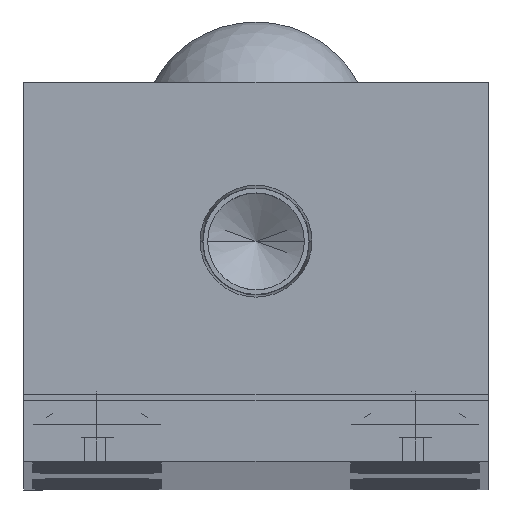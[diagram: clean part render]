
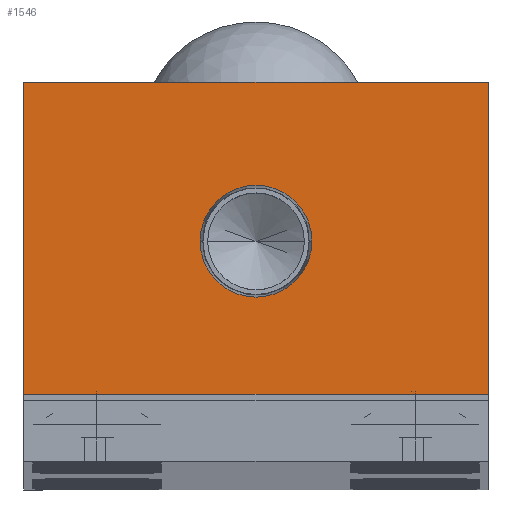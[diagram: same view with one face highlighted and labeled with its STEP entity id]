
A CAD part, top view. The second image highlights one B-rep face of the part: STEP entity #1546.
In plain terms, the highlighted planar face has unit normal (0, 0, 1).
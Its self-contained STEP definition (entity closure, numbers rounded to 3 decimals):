
#225 = VERTEX_POINT ( 'NONE', #12955 ) ;
#1214 = CARTESIAN_POINT ( 'NONE',  ( 19., 31., 0. ) ) ;
#1223 = ORIENTED_EDGE ( 'NONE', *, *, #8322, .T. ) ;
#1546 = ADVANCED_FACE ( 'NONE', ( #7977, #12549 ), #25907, .T. ) ;
#2416 = LINE ( 'NONE', #1214, #19655 ) ;
#2785 = EDGE_LOOP ( 'NONE', ( #10151, #12424 ) ) ;
#4124 = DIRECTION ( 'NONE',  ( 0., 1., 0. ) ) ;
#4690 = LINE ( 'NONE', #7090, #21975 ) ;
#4845 = DIRECTION ( 'NONE',  ( 1., 0., 0. ) ) ;
#5871 = VERTEX_POINT ( 'NONE', #28609 ) ;
#7090 = CARTESIAN_POINT ( 'NONE',  ( 19., 5.5, 0. ) ) ;
#7220 = CARTESIAN_POINT ( 'NONE',  ( -19., 31., 0. ) ) ;
#7977 = FACE_BOUND ( 'NONE', #2785, .T. ) ;
#8322 = EDGE_CURVE ( 'NONE', #5871, #225, #4690, .T. ) ;
#9256 = LINE ( 'NONE', #19832, #20522 ) ;
#10151 = ORIENTED_EDGE ( 'NONE', *, *, #10178, .F. ) ;
#10178 = EDGE_CURVE ( 'NONE', #28479, #18784, #21616, .T. ) ;
#10437 = EDGE_CURVE ( 'NONE', #225, #13577, #9256, .T. ) ;
#11439 = AXIS2_PLACEMENT_3D ( 'NONE', #21357, #28165, #14627 ) ;
#11669 = DIRECTION ( 'NONE',  ( 0., -1., 0. ) ) ;
#11898 = DIRECTION ( 'NONE',  ( 0., 0., 1. ) ) ;
#12176 = DIRECTION ( 'NONE',  ( 0., 0., 1. ) ) ;
#12234 = AXIS2_PLACEMENT_3D ( 'NONE', #25712, #12176, #27960 ) ;
#12424 = ORIENTED_EDGE ( 'NONE', *, *, #24090, .F. ) ;
#12549 = FACE_OUTER_BOUND ( 'NONE', #17525, .T. ) ;
#12955 = CARTESIAN_POINT ( 'NONE',  ( 19., 5.5, 0. ) ) ;
#12974 = ORIENTED_EDGE ( 'NONE', *, *, #18482, .T. ) ;
#13577 = VERTEX_POINT ( 'NONE', #22474 ) ;
#14558 = CIRCLE ( 'NONE', #16504, 4.574 ) ;
#14627 = DIRECTION ( 'NONE',  ( 1., 0., 0. ) ) ;
#16160 = CARTESIAN_POINT ( 'NONE',  ( -19., 31., 0. ) ) ;
#16504 = AXIS2_PLACEMENT_3D ( 'NONE', #25414, #11898, #27692 ) ;
#16562 = VERTEX_POINT ( 'NONE', #7220 ) ;
#17131 = VECTOR ( 'NONE', #11669, 1000. ) ;
#17525 = EDGE_LOOP ( 'NONE', ( #1223, #18211, #12974, #27777 ) ) ;
#18211 = ORIENTED_EDGE ( 'NONE', *, *, #10437, .T. ) ;
#18482 = EDGE_CURVE ( 'NONE', #13577, #16562, #2416, .T. ) ;
#18784 = VERTEX_POINT ( 'NONE', #25042 ) ;
#19655 = VECTOR ( 'NONE', #26052, 1000. ) ;
#19832 = CARTESIAN_POINT ( 'NONE',  ( 19., 5.5, 0. ) ) ;
#20268 = CARTESIAN_POINT ( 'NONE',  ( 4.574, 18., 0. ) ) ;
#20522 = VECTOR ( 'NONE', #4124, 1000. ) ;
#21319 = EDGE_CURVE ( 'NONE', #16562, #5871, #23896, .T. ) ;
#21357 = CARTESIAN_POINT ( 'NONE',  ( 0., 0., 0. ) ) ;
#21616 = CIRCLE ( 'NONE', #12234, 4.574 ) ;
#21975 = VECTOR ( 'NONE', #4845, 1000. ) ;
#22474 = CARTESIAN_POINT ( 'NONE',  ( 19., 31., 0. ) ) ;
#23896 = LINE ( 'NONE', #16160, #17131 ) ;
#24090 = EDGE_CURVE ( 'NONE', #18784, #28479, #14558, .T. ) ;
#25042 = CARTESIAN_POINT ( 'NONE',  ( -4.574, 18., 0. ) ) ;
#25414 = CARTESIAN_POINT ( 'NONE',  ( 0., 18., 0. ) ) ;
#25712 = CARTESIAN_POINT ( 'NONE',  ( 0., 18., 0. ) ) ;
#25907 = PLANE ( 'NONE',  #11439 ) ;
#26052 = DIRECTION ( 'NONE',  ( -1., 0., 0. ) ) ;
#27692 = DIRECTION ( 'NONE',  ( 1., 0., 0. ) ) ;
#27777 = ORIENTED_EDGE ( 'NONE', *, *, #21319, .T. ) ;
#27960 = DIRECTION ( 'NONE',  ( 1., 0., 0. ) ) ;
#28165 = DIRECTION ( 'NONE',  ( 0., 0., 1. ) ) ;
#28479 = VERTEX_POINT ( 'NONE', #20268 ) ;
#28609 = CARTESIAN_POINT ( 'NONE',  ( -19., 5.5, 0. ) ) ;
